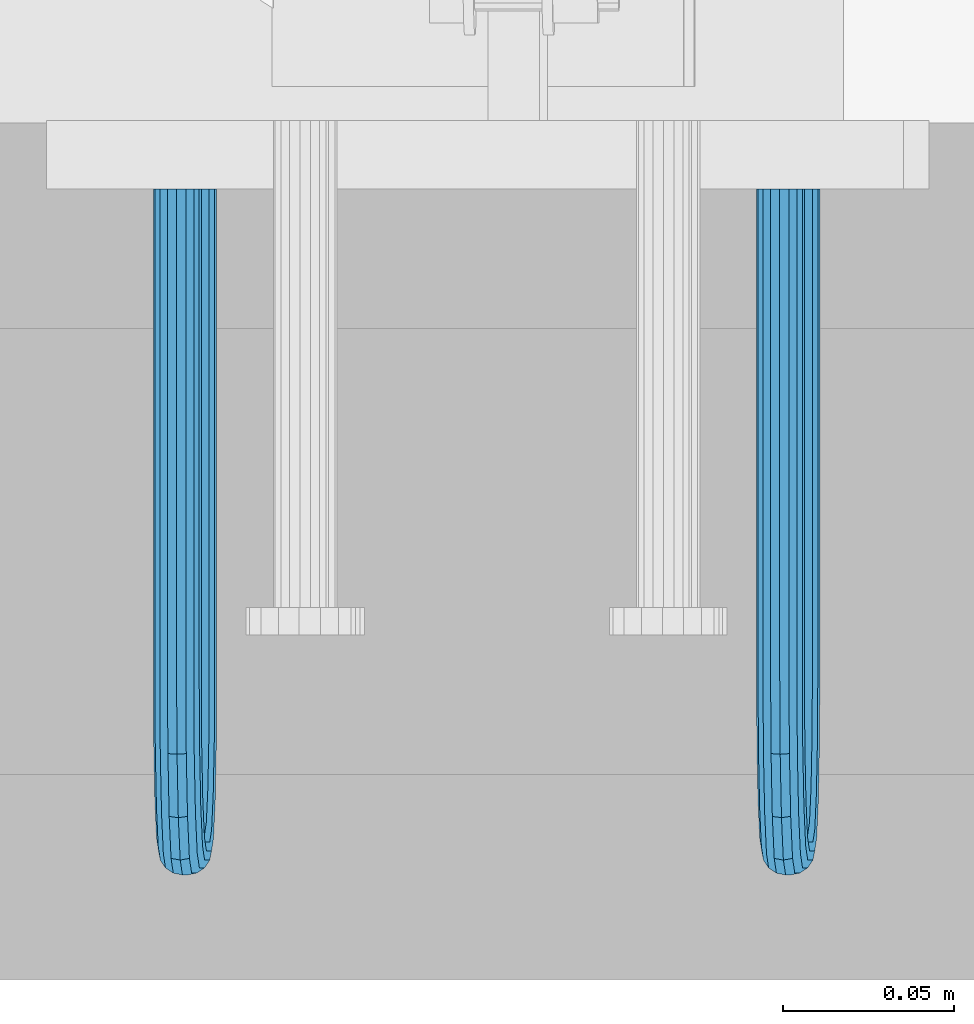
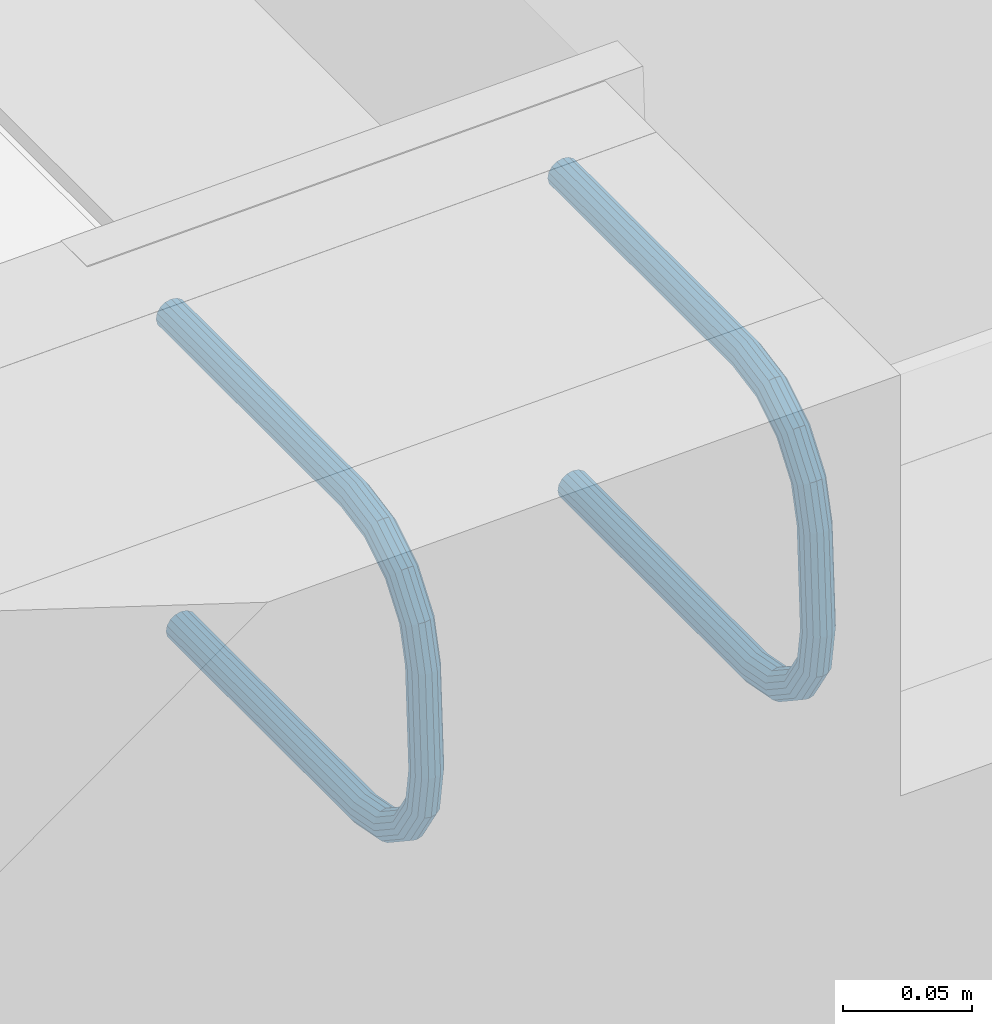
# One storey, part 82 of 476: 2 beams.
"""IFC2X3 building model written with IfcOpenShell, lengths in millimetres."""

from ifc_helpers import new_model, entity, si_unit, converted_unit, origin_with_axes, place, context, project, spatial, faceted_brep, material, element, save


model = new_model("IFC2X3")

# Units and contexts
model_context = context("Model", 3, precision=1e-09, world=origin_with_axes())
ifc_project = project(units=[si_unit("LENGTHUNIT", "METRE", prefix="MILLI"), si_unit("AREAUNIT", "SQUARE_METRE"), si_unit("VOLUMEUNIT", "CUBIC_METRE"), converted_unit("PLANEANGLEUNIT", "DEGREE", entity("IfcPlaneAngleMeasure", 0.01745329), si_unit("PLANEANGLEUNIT", "RADIAN"), dimensions=[0, 0, 0, 0, 0, 0, 0])], contexts=[model_context])

# Site, building, storey
site_placement = place(None, origin_with_axes())
site = spatial("IfcSite", under=ifc_project, at=site_placement, Name="mKR Teilneubau & Sanierung BA1 - Ostfildern", CompositionType="ELEMENT")
building_placement = place(site_placement, origin_with_axes())
building = spatial("IfcBuilding", under=site, at=building_placement, Name="Struktur 1", CompositionType="ELEMENT")
storey_placement = place(building_placement, origin_with_axes())
storey = spatial("IfcBuildingStorey", under=building, at=storey_placement, Name="Default Storey", CompositionType="ELEMENT", Elevation=0.0)

# Beams
ifc_material = material(Name="S235JR")
beam_1_placement = place(None, origin_with_axes())
element("IfcBeam", 1, at=beam_1_placement, inside=storey, material=ifc_material, Name="-", ObjectType="-", context=model_context, shape_type="Brep", body=[
    faceted_brep([(22051.627281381, -23549.67387897, 5509.47611117), (22053.851633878, -23549.67387897, 5511.061059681), (22056.51320116, -23549.67387897, 5511.674138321), (22059.206783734, -23549.67387897, 5511.222011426), (22061.522308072, -23549.67387897, 5509.773511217), (22063.107256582, -23549.67387897, 5507.54915872), (22063.720335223, -23549.67387897, 5504.887591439), (22063.268208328, -23549.67387897, 5502.194008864), (22061.819708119, -23549.67387897, 5499.878484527), (22059.595355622, -23549.67387897, 5498.293536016), (22056.93378834, -23549.67387897, 5497.680457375), (22054.240205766, -23549.67387897, 5498.13258427), (22051.924681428, -23549.67387897, 5499.581084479), (22050.339732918, -23549.67387897, 5501.805436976), (22049.726654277, -23549.67387897, 5504.467004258), (22050.178781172, -23549.67387897, 5507.160586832), (22049.733914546, -23549.67387897, 5648.064880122), (22047.418390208, -23549.67387897, 5649.513380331), (22045.833441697, -23549.67387897, 5651.737732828), (22045.220363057, -23549.67387897, 5654.39930011), (22045.672489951, -23549.67387897, 5657.092882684), (22047.120990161, -23549.67387897, 5659.408407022), (22049.345342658, -23549.67387897, 5660.993355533), (22052.006909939, -23549.67387897, 5661.606434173), (22054.700492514, -23549.67387897, 5661.154307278), (22057.016016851, -23549.67387897, 5659.705807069), (22058.600965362, -23549.67387897, 5657.481454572), (22059.214044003, -23549.67387897, 5654.81988729), (22058.761917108, -23549.67387897, 5652.126304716), (22057.313416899, -23549.67387897, 5649.810780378), (22055.089064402, -23549.67387897, 5648.225831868), (22052.42749712, -23549.67387897, 5647.612753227), (22051.627281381, -23692.67387897, 5509.47611117), (22053.851633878, -23692.67387897, 5511.061059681), (22050.178781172, -23692.67387897, 5507.160586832), (22049.726654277, -23692.67387897, 5504.467004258), (22050.339732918, -23692.67387897, 5501.805436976), (22051.924681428, -23692.67387897, 5499.581084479), (22054.240205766, -23692.67387897, 5498.13258427), (22056.93378834, -23692.67387897, 5497.680457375), (22059.595355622, -23692.67387897, 5498.293536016), (22061.819708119, -23692.67387897, 5499.878484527), (22063.268208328, -23692.67387897, 5502.194008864), (22063.720335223, -23692.67387897, 5504.887591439), (22063.107256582, -23692.67387897, 5507.54915872), (22061.522308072, -23692.67387897, 5509.773511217), (22059.206783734, -23692.67387897, 5511.222011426), (22056.51320116, -23692.67387897, 5511.674138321), (22051.524260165, -23709.913864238, 5512.903809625), (22053.752082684, -23709.333176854, 5514.373304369), (22050.070566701, -23710.782924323, 5510.761074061), (22049.612313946, -23711.808050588, 5508.271309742), (22050.219266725, -23712.833176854, 5505.813560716), (22051.799021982, -23713.702236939, 5503.761996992), (22054.111076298, -23714.282924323, 5502.42895055), (22056.803440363, -23714.486834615, 5502.017365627), (22059.466226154, -23714.282924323, 5502.589902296), (22061.694048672, -23713.702236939, 5504.059397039), (22063.147742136, -23712.833176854, 5506.202132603), (22063.605994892, -23711.808050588, 5508.691896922), (22062.999042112, -23710.782924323, 5511.149645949), (22061.419286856, -23709.913864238, 5513.201209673), (22059.10723254, -23709.333176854, 5514.534256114), (22056.414868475, -23709.129266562, 5514.945841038), (22051.230880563, -23724.52921803, 5522.665068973), (22053.468584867, -23723.456247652, 5523.805779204), (22049.762397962, -23726.135031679, 5521.014394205), (22049.28670023, -23728.02921803, 5519.10505517), (22049.876208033, -23729.92340438, 5517.227731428), (22051.441174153, -23731.52921803, 5515.6682285), (22053.743346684, -23732.602188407, 5514.663966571), (22056.432240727, -23732.978965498, 5514.367835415), (22059.09849654, -23732.602188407, 5514.824918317), (22061.336200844, -23731.52921803, 5515.965628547), (22062.804683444, -23729.92340438, 5517.616303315), (22063.280381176, -23728.02921803, 5519.525642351), (22062.690873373, -23726.135031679, 5521.402966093), (22061.125907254, -23724.52921803, 5522.962469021), (22058.823734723, -23723.456247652, 5523.96673095), (22056.13484068, -23723.079470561, 5524.262862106), (22050.79180696, -23734.294885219, 5537.273825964), (22053.044300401, -23732.892981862, 5537.922475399), (22049.301190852, -23736.392981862, 5536.359572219), (22048.799384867, -23738.867855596, 5535.318901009), (22049.362784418, -23741.34272933, 5534.310245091), (22050.905617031, -23743.440825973, 5533.487163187), (22053.193000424, -23744.84272933, 5532.974962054), (22055.876701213, -23745.335012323, 5532.851619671), (22058.54815028, -23744.84272933, 5533.135913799), (22060.800643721, -23743.440825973, 5533.784563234), (22062.291259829, -23741.34272933, 5534.698816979), (22062.793065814, -23738.867855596, 5535.739488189), (22062.229666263, -23736.392981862, 5536.748144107), (22060.68683365, -23734.294885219, 5537.571226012), (22058.399450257, -23732.892981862, 5538.083427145), (22055.715749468, -23732.400698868, 5538.206769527), (22050.273884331, -23737.724131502, 5554.506029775), (22052.543822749, -23736.206722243, 5554.574253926), (22048.757159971, -23739.995094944, 5554.460443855), (22048.224557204, -23742.67387897, 5554.444436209), (22048.757159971, -23745.352662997, 5554.460443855), (22050.273884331, -23747.623626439, 5554.506029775), (22052.543822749, -23749.141035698, 5554.574253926), (22055.221397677, -23749.67387897, 5554.654729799), (22057.898972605, -23749.141035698, 5554.735205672), (22060.168911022, -23747.623626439, 5554.803429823), (22061.685635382, -23745.352662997, 5554.849015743), (22062.21823815, -23742.67387897, 5554.865023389), (22061.685635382, -23739.995094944, 5554.849015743), (22060.168911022, -23737.724131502, 5554.803429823), (22057.898972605, -23736.206722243, 5554.735205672), (22055.221397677, -23735.67387897, 5554.654729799), (22048.771787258, -23737.724131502, 5604.483461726), (22051.041725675, -23736.206722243, 5604.551685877), (22047.255062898, -23739.995094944, 5604.437875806), (22046.72246013, -23742.67387897, 5604.421868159), (22047.255062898, -23745.352662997, 5604.437875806), (22048.771787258, -23747.623626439, 5604.483461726), (22051.041725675, -23749.141035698, 5604.551685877), (22053.719300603, -23749.67387897, 5604.63216175), (22056.396875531, -23749.141035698, 5604.712637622), (22058.666813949, -23747.623626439, 5604.780861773), (22060.183538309, -23745.352662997, 5604.826447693), (22060.716141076, -23742.67387897, 5604.84245534), (22060.183538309, -23739.995094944, 5604.826447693), (22058.666813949, -23737.724131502, 5604.780861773), (22056.396875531, -23736.206722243, 5604.712637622), (22053.719300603, -23735.67387897, 5604.63216175), (22048.253864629, -23734.294885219, 5621.715665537), (22050.541248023, -23732.892981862, 5621.203464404), (22046.711032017, -23736.392981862, 5622.538747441), (22046.147632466, -23738.867855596, 5623.547403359), (22046.649438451, -23741.34272933, 5624.588074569), (22048.140054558, -23743.440825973, 5625.502328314), (22050.392548, -23744.84272933, 5626.150977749), (22053.063997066, -23745.335012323, 5626.435271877), (22055.747697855, -23744.84272933, 5626.311929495), (22058.035081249, -23743.440825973, 5625.799728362), (22059.577913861, -23741.34272933, 5624.976646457), (22060.141313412, -23738.867855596, 5623.967990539), (22059.639507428, -23736.392981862, 5622.927319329), (22058.14889132, -23734.294885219, 5622.013065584), (22055.896397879, -23732.892981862, 5621.364416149), (22053.224948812, -23732.400698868, 5621.080122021), (22047.814791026, -23724.52921803, 5636.324422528), (22050.116963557, -23723.456247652, 5635.320160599), (22046.249824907, -23726.135031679, 5637.883925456), (22045.660317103, -23728.02921803, 5639.761249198), (22046.136014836, -23729.92340438, 5641.670588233), (22047.604497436, -23731.52921803, 5643.321263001), (22049.84220174, -23732.602188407, 5644.461973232), (22052.508457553, -23732.978965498, 5644.919056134), (22055.197351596, -23732.602188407, 5644.622924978), (22057.499524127, -23731.52921803, 5643.618663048), (22059.064490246, -23729.92340438, 5642.059160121), (22059.65399805, -23728.02921803, 5640.181836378), (22059.178300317, -23726.135031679, 5638.272497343), (22057.709817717, -23724.52921803, 5636.621822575), (22055.472113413, -23723.456247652, 5635.481112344), (22052.8058576, -23723.079470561, 5635.024029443), (22047.521411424, -23709.913864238, 5646.085681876), (22049.83346574, -23709.333176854, 5644.752635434), (22045.941656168, -23710.782924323, 5648.1372456), (22045.334703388, -23711.808050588, 5650.594994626), (22045.792956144, -23712.833176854, 5653.084758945), (22047.246649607, -23713.702236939, 5655.227494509), (22049.474472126, -23714.282924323, 5656.696989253), (22052.137257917, -23714.486834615, 5657.269525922), (22054.829621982, -23714.282924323, 5656.857940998), (22057.141676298, -23713.702236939, 5655.524894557), (22058.721431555, -23712.833176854, 5653.473330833), (22059.328384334, -23711.808050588, 5651.015581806), (22058.870131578, -23710.782924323, 5648.525817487), (22057.416438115, -23709.913864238, 5646.383081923), (22055.188615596, -23709.333176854, 5644.91358718), (22052.525829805, -23709.129266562, 5644.341050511), (22047.418390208, -23692.67387897, 5649.513380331), (22049.733914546, -23692.67387897, 5648.064880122), (22045.833441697, -23692.67387897, 5651.737732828), (22045.220363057, -23692.67387897, 5654.39930011), (22045.672489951, -23692.67387897, 5657.092882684), (22047.120990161, -23692.67387897, 5659.408407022), (22049.345342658, -23692.67387897, 5660.993355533), (22052.006909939, -23692.67387897, 5661.606434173), (22054.700492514, -23692.67387897, 5661.154307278), (22057.016016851, -23692.67387897, 5659.705807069), (22058.600965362, -23692.67387897, 5657.481454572), (22059.214044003, -23692.67387897, 5654.81988729), (22058.761917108, -23692.67387897, 5652.126304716), (22057.313416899, -23692.67387897, 5649.810780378), (22055.089064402, -23692.67387897, 5648.225831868), (22052.42749712, -23692.67387897, 5647.612753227)], [[[0, 1, 2, 3, 4, 5, 6, 7, 8, 9, 10, 11, 12, 13, 14, 15]], [[16, 17, 18, 19, 20, 21, 22, 23, 24, 25, 26, 27, 28, 29, 30, 31]], [[1, 0, 32, 33]], [[0, 15, 34, 32]], [[15, 14, 35, 34]], [[14, 13, 36, 35]], [[13, 12, 37, 36]], [[12, 11, 38, 37]], [[11, 10, 39, 38]], [[10, 9, 40, 39]], [[9, 8, 41, 40]], [[8, 7, 42, 41]], [[7, 6, 43, 42]], [[6, 5, 44, 43]], [[5, 4, 45, 44]], [[4, 3, 46, 45]], [[3, 2, 47, 46]], [[2, 1, 33, 47]], [[33, 32, 48, 49]], [[32, 34, 50, 48]], [[34, 35, 51, 50]], [[35, 36, 52, 51]], [[36, 37, 53, 52]], [[37, 38, 54, 53]], [[38, 39, 55, 54]], [[39, 40, 56, 55]], [[40, 41, 57, 56]], [[41, 42, 58, 57]], [[42, 43, 59, 58]], [[43, 44, 60, 59]], [[44, 45, 61, 60]], [[45, 46, 62, 61]], [[46, 47, 63, 62]], [[47, 33, 49, 63]], [[49, 48, 64, 65]], [[48, 50, 66, 64]], [[50, 51, 67, 66]], [[51, 52, 68, 67]], [[52, 53, 69, 68]], [[53, 54, 70, 69]], [[54, 55, 71, 70]], [[55, 56, 72, 71]], [[56, 57, 73, 72]], [[57, 58, 74, 73]], [[58, 59, 75, 74]], [[59, 60, 76, 75]], [[60, 61, 77, 76]], [[61, 62, 78, 77]], [[62, 63, 79, 78]], [[63, 49, 65, 79]], [[65, 64, 80, 81]], [[64, 66, 82, 80]], [[66, 67, 83, 82]], [[67, 68, 84, 83]], [[68, 69, 85, 84]], [[69, 70, 86, 85]], [[70, 71, 87, 86]], [[71, 72, 88, 87]], [[72, 73, 89, 88]], [[73, 74, 90, 89]], [[74, 75, 91, 90]], [[75, 76, 92, 91]], [[76, 77, 93, 92]], [[77, 78, 94, 93]], [[78, 79, 95, 94]], [[79, 65, 81, 95]], [[81, 80, 96, 97]], [[80, 82, 98, 96]], [[82, 83, 99, 98]], [[83, 84, 100, 99]], [[84, 85, 101, 100]], [[85, 86, 102, 101]], [[86, 87, 103, 102]], [[87, 88, 104, 103]], [[88, 89, 105, 104]], [[89, 90, 106, 105]], [[90, 91, 107, 106]], [[91, 92, 108, 107]], [[92, 93, 109, 108]], [[93, 94, 110, 109]], [[94, 95, 111, 110]], [[95, 81, 97, 111]], [[97, 96, 112, 113]], [[96, 98, 114, 112]], [[98, 99, 115, 114]], [[99, 100, 116, 115]], [[100, 101, 117, 116]], [[101, 102, 118, 117]], [[102, 103, 119, 118]], [[103, 104, 120, 119]], [[104, 105, 121, 120]], [[105, 106, 122, 121]], [[106, 107, 123, 122]], [[107, 108, 124, 123]], [[108, 109, 125, 124]], [[109, 110, 126, 125]], [[110, 111, 127, 126]], [[111, 97, 113, 127]], [[113, 112, 128, 129]], [[112, 114, 130, 128]], [[114, 115, 131, 130]], [[115, 116, 132, 131]], [[116, 117, 133, 132]], [[117, 118, 134, 133]], [[118, 119, 135, 134]], [[119, 120, 136, 135]], [[120, 121, 137, 136]], [[121, 122, 138, 137]], [[122, 123, 139, 138]], [[123, 124, 140, 139]], [[124, 125, 141, 140]], [[125, 126, 142, 141]], [[126, 127, 143, 142]], [[127, 113, 129, 143]], [[129, 128, 144, 145]], [[128, 130, 146, 144]], [[130, 131, 147, 146]], [[131, 132, 148, 147]], [[132, 133, 149, 148]], [[133, 134, 150, 149]], [[134, 135, 151, 150]], [[135, 136, 152, 151]], [[136, 137, 153, 152]], [[137, 138, 154, 153]], [[138, 139, 155, 154]], [[139, 140, 156, 155]], [[140, 141, 157, 156]], [[141, 142, 158, 157]], [[142, 143, 159, 158]], [[143, 129, 145, 159]], [[145, 144, 160, 161]], [[144, 146, 162, 160]], [[146, 147, 163, 162]], [[147, 148, 164, 163]], [[148, 149, 165, 164]], [[149, 150, 166, 165]], [[150, 151, 167, 166]], [[151, 152, 168, 167]], [[152, 153, 169, 168]], [[153, 154, 170, 169]], [[154, 155, 171, 170]], [[155, 156, 172, 171]], [[156, 157, 173, 172]], [[157, 158, 174, 173]], [[158, 159, 175, 174]], [[159, 145, 161, 175]], [[161, 160, 176, 177]], [[160, 162, 178, 176]], [[162, 163, 179, 178]], [[163, 164, 180, 179]], [[164, 165, 181, 180]], [[165, 166, 182, 181]], [[166, 167, 183, 182]], [[167, 168, 184, 183]], [[168, 169, 185, 184]], [[169, 170, 186, 185]], [[170, 171, 187, 186]], [[171, 172, 188, 187]], [[172, 173, 189, 188]], [[173, 174, 190, 189]], [[174, 175, 191, 190]], [[175, 161, 177, 191]], [[177, 176, 17, 16]], [[176, 178, 18, 17]], [[178, 179, 19, 18]], [[179, 180, 20, 19]], [[180, 181, 21, 20]], [[181, 182, 22, 21]], [[182, 183, 23, 22]], [[183, 184, 24, 23]], [[184, 185, 25, 24]], [[185, 186, 26, 25]], [[186, 187, 27, 26]], [[187, 188, 28, 27]], [[188, 189, 29, 28]], [[189, 190, 30, 29]], [[190, 191, 31, 30]], [[191, 177, 16, 31]]]),
])
beam_2_placement = place(None, origin_with_axes())
element("IfcBeam", 2, at=beam_2_placement, inside=storey, material=ifc_material, Name="-", ObjectType="-", context=model_context, shape_type="Brep", body=[
    faceted_brep([(21875.706720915, -23549.67387897, 5504.188729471), (21877.931073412, -23549.67387897, 5505.773677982), (21880.592640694, -23549.67387897, 5506.386756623), (21883.286223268, -23549.67387897, 5505.934629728), (21885.601747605, -23549.67387897, 5504.486129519), (21887.186696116, -23549.67387897, 5502.261777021), (21887.799774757, -23549.67387897, 5499.60020974), (21887.347647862, -23549.67387897, 5496.906627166), (21885.899147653, -23549.67387897, 5494.591102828), (21883.674795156, -23549.67387897, 5493.006154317), (21881.013227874, -23549.67387897, 5492.393075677), (21878.3196453, -23549.67387897, 5492.845202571), (21876.004120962, -23549.67387897, 5494.293702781), (21874.419172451, -23549.67387897, 5496.518055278), (21873.806093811, -23549.67387897, 5499.179622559), (21874.258220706, -23549.67387897, 5501.873205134), (21873.813354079, -23549.67387897, 5642.777498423), (21871.497829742, -23549.67387897, 5644.225998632), (21869.912881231, -23549.67387897, 5646.45035113), (21869.29980259, -23549.67387897, 5649.111918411), (21869.751929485, -23549.67387897, 5651.805500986), (21871.200429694, -23549.67387897, 5654.121025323), (21873.424782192, -23549.67387897, 5655.705973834), (21876.086349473, -23549.67387897, 5656.319052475), (21878.779932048, -23549.67387897, 5655.86692558), (21881.095456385, -23549.67387897, 5654.418425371), (21882.680404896, -23549.67387897, 5652.194072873), (21883.293483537, -23549.67387897, 5649.532505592), (21882.841356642, -23549.67387897, 5646.838923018), (21881.392856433, -23549.67387897, 5644.52339868), (21879.168503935, -23549.67387897, 5642.938450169), (21876.506936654, -23549.67387897, 5642.325371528), (21875.706720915, -23692.67387897, 5504.188729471), (21877.931073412, -23692.67387897, 5505.773677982), (21874.258220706, -23692.67387897, 5501.873205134), (21873.806093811, -23692.67387897, 5499.179622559), (21874.419172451, -23692.67387897, 5496.518055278), (21876.004120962, -23692.67387897, 5494.293702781), (21878.3196453, -23692.67387897, 5492.845202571), (21881.013227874, -23692.67387897, 5492.393075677), (21883.674795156, -23692.67387897, 5493.006154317), (21885.899147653, -23692.67387897, 5494.591102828), (21887.347647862, -23692.67387897, 5496.906627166), (21887.799774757, -23692.67387897, 5499.60020974), (21887.186696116, -23692.67387897, 5502.261777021), (21885.601747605, -23692.67387897, 5504.486129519), (21883.286223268, -23692.67387897, 5505.934629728), (21880.592640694, -23692.67387897, 5506.386756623), (21875.603699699, -23709.913864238, 5507.616427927), (21877.831522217, -23709.333176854, 5509.08592267), (21874.150006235, -23710.782924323, 5505.473692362), (21873.691753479, -23711.808050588, 5502.983928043), (21874.298706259, -23712.833176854, 5500.526179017), (21875.878461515, -23713.702236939, 5498.474615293), (21878.190515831, -23714.282924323, 5497.141568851), (21880.882879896, -23714.486834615, 5496.729983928), (21883.545665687, -23714.282924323, 5497.302520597), (21885.773488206, -23713.702236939, 5498.772015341), (21887.22718167, -23712.833176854, 5500.914750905), (21887.685434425, -23711.808050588, 5503.404515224), (21887.078481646, -23710.782924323, 5505.86226425), (21885.498726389, -23709.913864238, 5507.913827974), (21883.186672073, -23709.333176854, 5509.246874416), (21880.494308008, -23709.129266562, 5509.658459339), (21875.310320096, -23724.52921803, 5517.377687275), (21877.548024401, -23723.456247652, 5518.518397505), (21873.841837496, -23726.135031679, 5515.727012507), (21873.366139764, -23728.02921803, 5513.817673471), (21873.955647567, -23729.92340438, 5511.940349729), (21875.520613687, -23731.52921803, 5510.380846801), (21877.822786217, -23732.602188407, 5509.376584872), (21880.511680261, -23732.978965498, 5509.080453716), (21883.177936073, -23732.602188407, 5509.537536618), (21885.415640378, -23731.52921803, 5510.678246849), (21886.884122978, -23729.92340438, 5512.328921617), (21887.35982071, -23728.02921803, 5514.238260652), (21886.770312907, -23726.135031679, 5516.115584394), (21885.205346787, -23724.52921803, 5517.675087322), (21882.903174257, -23723.456247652, 5518.679349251), (21880.214280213, -23723.079470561, 5518.975480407), (21874.871246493, -23734.294885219, 5531.986444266), (21877.123739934, -23732.892981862, 5532.6350937), (21873.380630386, -23736.392981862, 5531.072190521), (21872.878824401, -23738.867855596, 5530.03151931), (21873.442223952, -23741.34272933, 5529.022863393), (21874.985056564, -23743.440825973, 5528.199781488), (21877.272439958, -23744.84272933, 5527.687580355), (21879.956140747, -23745.335012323, 5527.564237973), (21882.627589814, -23744.84272933, 5527.848532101), (21884.880083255, -23743.440825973, 5528.497181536), (21886.370699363, -23741.34272933, 5529.411435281), (21886.872505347, -23738.867855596, 5530.452106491), (21886.309105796, -23736.392981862, 5531.460762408), (21884.766273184, -23734.294885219, 5532.283844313), (21882.47888979, -23732.892981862, 5532.796045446), (21879.795189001, -23732.400698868, 5532.919387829), (21874.353323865, -23737.724131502, 5549.218648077), (21876.623262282, -23736.206722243, 5549.286872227), (21872.836599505, -23739.995094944, 5549.173062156), (21872.303996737, -23742.67387897, 5549.15705451), (21872.836599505, -23745.352662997, 5549.173062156), (21874.353323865, -23747.623626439, 5549.218648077), (21876.623262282, -23749.141035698, 5549.286872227), (21879.30083721, -23749.67387897, 5549.3673481), (21881.978412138, -23749.141035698, 5549.447823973), (21884.248350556, -23747.623626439, 5549.516048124), (21885.765074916, -23745.352662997, 5549.561634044), (21886.297677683, -23742.67387897, 5549.577641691), (21885.765074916, -23739.995094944, 5549.561634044), (21884.248350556, -23737.724131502, 5549.516048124), (21881.978412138, -23736.206722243, 5549.447823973), (21879.30083721, -23735.67387897, 5549.3673481), (21872.851226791, -23737.724131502, 5599.196080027), (21875.121165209, -23736.206722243, 5599.264304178), (21871.334502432, -23739.995094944, 5599.150494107), (21870.801899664, -23742.67387897, 5599.134486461), (21871.334502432, -23745.352662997, 5599.150494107), (21872.851226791, -23747.623626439, 5599.196080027), (21875.121165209, -23749.141035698, 5599.264304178), (21877.798740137, -23749.67387897, 5599.344780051), (21880.476315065, -23749.141035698, 5599.425255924), (21882.746253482, -23747.623626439, 5599.493480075), (21884.262977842, -23745.352662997, 5599.539065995), (21884.79558061, -23742.67387897, 5599.555073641), (21884.262977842, -23739.995094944, 5599.539065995), (21882.746253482, -23737.724131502, 5599.493480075), (21880.476315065, -23736.206722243, 5599.425255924), (21877.798740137, -23735.67387897, 5599.344780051), (21872.333304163, -23734.294885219, 5616.428283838), (21874.620687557, -23732.892981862, 5615.916082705), (21870.790471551, -23736.392981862, 5617.251365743), (21870.227072, -23738.867855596, 5618.26002166), (21870.728877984, -23741.34272933, 5619.300692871), (21872.219494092, -23743.440825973, 5620.214946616), (21874.471987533, -23744.84272933, 5620.86359605), (21877.1434366, -23745.335012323, 5621.147890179), (21879.827137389, -23744.84272933, 5621.024547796), (21882.114520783, -23743.440825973, 5620.512346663), (21883.657353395, -23741.34272933, 5619.689264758), (21884.220752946, -23738.867855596, 5618.680608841), (21883.718946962, -23736.392981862, 5617.639937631), (21882.228330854, -23734.294885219, 5616.725683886), (21879.975837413, -23732.892981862, 5616.077034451), (21877.304388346, -23732.400698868, 5615.792740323), (21871.89423056, -23724.52921803, 5631.037040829), (21874.196403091, -23723.456247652, 5630.0327789), (21870.32926444, -23726.135031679, 5632.596543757), (21869.739756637, -23728.02921803, 5634.473867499), (21870.215454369, -23729.92340438, 5636.383206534), (21871.68393697, -23731.52921803, 5638.033881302), (21873.921641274, -23732.602188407, 5639.174591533), (21876.587897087, -23732.978965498, 5639.631674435), (21879.27679113, -23732.602188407, 5639.335543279), (21881.578963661, -23731.52921803, 5638.33128135), (21883.14392978, -23729.92340438, 5636.771778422), (21883.733437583, -23728.02921803, 5634.89445468), (21883.257739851, -23726.135031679, 5632.985115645), (21881.789257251, -23724.52921803, 5631.334440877), (21879.551552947, -23723.456247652, 5630.193730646), (21876.885297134, -23723.079470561, 5629.736647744), (21871.600850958, -23709.913864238, 5640.798300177), (21873.912905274, -23709.333176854, 5639.465253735), (21870.021095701, -23710.782924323, 5642.849863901), (21869.414142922, -23711.808050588, 5645.307612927), (21869.872395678, -23712.833176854, 5647.797377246), (21871.326089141, -23713.702236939, 5649.940112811), (21873.55391166, -23714.282924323, 5651.409607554), (21876.216697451, -23714.486834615, 5651.982144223), (21878.909061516, -23714.282924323, 5651.5705593), (21881.221115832, -23713.702236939, 5650.237512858), (21882.800871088, -23712.833176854, 5648.185949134), (21883.407823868, -23711.808050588, 5645.728200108), (21882.949571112, -23710.782924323, 5643.238435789), (21881.495877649, -23709.913864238, 5641.095700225), (21879.26805513, -23709.333176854, 5639.626205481), (21876.605269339, -23709.129266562, 5639.053668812), (21871.497829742, -23692.67387897, 5644.225998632), (21873.813354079, -23692.67387897, 5642.777498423), (21869.912881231, -23692.67387897, 5646.45035113), (21869.29980259, -23692.67387897, 5649.111918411), (21869.751929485, -23692.67387897, 5651.805500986), (21871.200429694, -23692.67387897, 5654.121025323), (21873.424782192, -23692.67387897, 5655.705973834), (21876.086349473, -23692.67387897, 5656.319052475), (21878.779932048, -23692.67387897, 5655.86692558), (21881.095456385, -23692.67387897, 5654.418425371), (21882.680404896, -23692.67387897, 5652.194072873), (21883.293483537, -23692.67387897, 5649.532505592), (21882.841356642, -23692.67387897, 5646.838923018), (21881.392856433, -23692.67387897, 5644.52339868), (21879.168503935, -23692.67387897, 5642.938450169), (21876.506936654, -23692.67387897, 5642.325371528)], [[[0, 1, 2, 3, 4, 5, 6, 7, 8, 9, 10, 11, 12, 13, 14, 15]], [[16, 17, 18, 19, 20, 21, 22, 23, 24, 25, 26, 27, 28, 29, 30, 31]], [[1, 0, 32, 33]], [[0, 15, 34, 32]], [[15, 14, 35, 34]], [[14, 13, 36, 35]], [[13, 12, 37, 36]], [[12, 11, 38, 37]], [[11, 10, 39, 38]], [[10, 9, 40, 39]], [[9, 8, 41, 40]], [[8, 7, 42, 41]], [[7, 6, 43, 42]], [[6, 5, 44, 43]], [[5, 4, 45, 44]], [[4, 3, 46, 45]], [[3, 2, 47, 46]], [[2, 1, 33, 47]], [[33, 32, 48, 49]], [[32, 34, 50, 48]], [[34, 35, 51, 50]], [[35, 36, 52, 51]], [[36, 37, 53, 52]], [[37, 38, 54, 53]], [[38, 39, 55, 54]], [[39, 40, 56, 55]], [[40, 41, 57, 56]], [[41, 42, 58, 57]], [[42, 43, 59, 58]], [[43, 44, 60, 59]], [[44, 45, 61, 60]], [[45, 46, 62, 61]], [[46, 47, 63, 62]], [[47, 33, 49, 63]], [[49, 48, 64, 65]], [[48, 50, 66, 64]], [[50, 51, 67, 66]], [[51, 52, 68, 67]], [[52, 53, 69, 68]], [[53, 54, 70, 69]], [[54, 55, 71, 70]], [[55, 56, 72, 71]], [[56, 57, 73, 72]], [[57, 58, 74, 73]], [[58, 59, 75, 74]], [[59, 60, 76, 75]], [[60, 61, 77, 76]], [[61, 62, 78, 77]], [[62, 63, 79, 78]], [[63, 49, 65, 79]], [[65, 64, 80, 81]], [[64, 66, 82, 80]], [[66, 67, 83, 82]], [[67, 68, 84, 83]], [[68, 69, 85, 84]], [[69, 70, 86, 85]], [[70, 71, 87, 86]], [[71, 72, 88, 87]], [[72, 73, 89, 88]], [[73, 74, 90, 89]], [[74, 75, 91, 90]], [[75, 76, 92, 91]], [[76, 77, 93, 92]], [[77, 78, 94, 93]], [[78, 79, 95, 94]], [[79, 65, 81, 95]], [[81, 80, 96, 97]], [[80, 82, 98, 96]], [[82, 83, 99, 98]], [[83, 84, 100, 99]], [[84, 85, 101, 100]], [[85, 86, 102, 101]], [[86, 87, 103, 102]], [[87, 88, 104, 103]], [[88, 89, 105, 104]], [[89, 90, 106, 105]], [[90, 91, 107, 106]], [[91, 92, 108, 107]], [[92, 93, 109, 108]], [[93, 94, 110, 109]], [[94, 95, 111, 110]], [[95, 81, 97, 111]], [[97, 96, 112, 113]], [[96, 98, 114, 112]], [[98, 99, 115, 114]], [[99, 100, 116, 115]], [[100, 101, 117, 116]], [[101, 102, 118, 117]], [[102, 103, 119, 118]], [[103, 104, 120, 119]], [[104, 105, 121, 120]], [[105, 106, 122, 121]], [[106, 107, 123, 122]], [[107, 108, 124, 123]], [[108, 109, 125, 124]], [[109, 110, 126, 125]], [[110, 111, 127, 126]], [[111, 97, 113, 127]], [[113, 112, 128, 129]], [[112, 114, 130, 128]], [[114, 115, 131, 130]], [[115, 116, 132, 131]], [[116, 117, 133, 132]], [[117, 118, 134, 133]], [[118, 119, 135, 134]], [[119, 120, 136, 135]], [[120, 121, 137, 136]], [[121, 122, 138, 137]], [[122, 123, 139, 138]], [[123, 124, 140, 139]], [[124, 125, 141, 140]], [[125, 126, 142, 141]], [[126, 127, 143, 142]], [[127, 113, 129, 143]], [[129, 128, 144, 145]], [[128, 130, 146, 144]], [[130, 131, 147, 146]], [[131, 132, 148, 147]], [[132, 133, 149, 148]], [[133, 134, 150, 149]], [[134, 135, 151, 150]], [[135, 136, 152, 151]], [[136, 137, 153, 152]], [[137, 138, 154, 153]], [[138, 139, 155, 154]], [[139, 140, 156, 155]], [[140, 141, 157, 156]], [[141, 142, 158, 157]], [[142, 143, 159, 158]], [[143, 129, 145, 159]], [[145, 144, 160, 161]], [[144, 146, 162, 160]], [[146, 147, 163, 162]], [[147, 148, 164, 163]], [[148, 149, 165, 164]], [[149, 150, 166, 165]], [[150, 151, 167, 166]], [[151, 152, 168, 167]], [[152, 153, 169, 168]], [[153, 154, 170, 169]], [[154, 155, 171, 170]], [[155, 156, 172, 171]], [[156, 157, 173, 172]], [[157, 158, 174, 173]], [[158, 159, 175, 174]], [[159, 145, 161, 175]], [[161, 160, 176, 177]], [[160, 162, 178, 176]], [[162, 163, 179, 178]], [[163, 164, 180, 179]], [[164, 165, 181, 180]], [[165, 166, 182, 181]], [[166, 167, 183, 182]], [[167, 168, 184, 183]], [[168, 169, 185, 184]], [[169, 170, 186, 185]], [[170, 171, 187, 186]], [[171, 172, 188, 187]], [[172, 173, 189, 188]], [[173, 174, 190, 189]], [[174, 175, 191, 190]], [[175, 161, 177, 191]], [[177, 176, 17, 16]], [[176, 178, 18, 17]], [[178, 179, 19, 18]], [[179, 180, 20, 19]], [[180, 181, 21, 20]], [[181, 182, 22, 21]], [[182, 183, 23, 22]], [[183, 184, 24, 23]], [[184, 185, 25, 24]], [[185, 186, 26, 25]], [[186, 187, 27, 26]], [[187, 188, 28, 27]], [[188, 189, 29, 28]], [[189, 190, 30, 29]], [[190, 191, 31, 30]], [[191, 177, 16, 31]]]),
])

save(model, "model.ifc")
